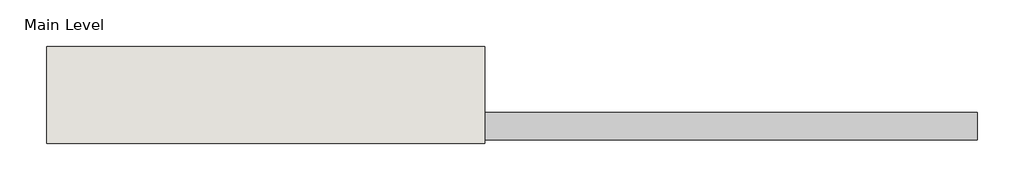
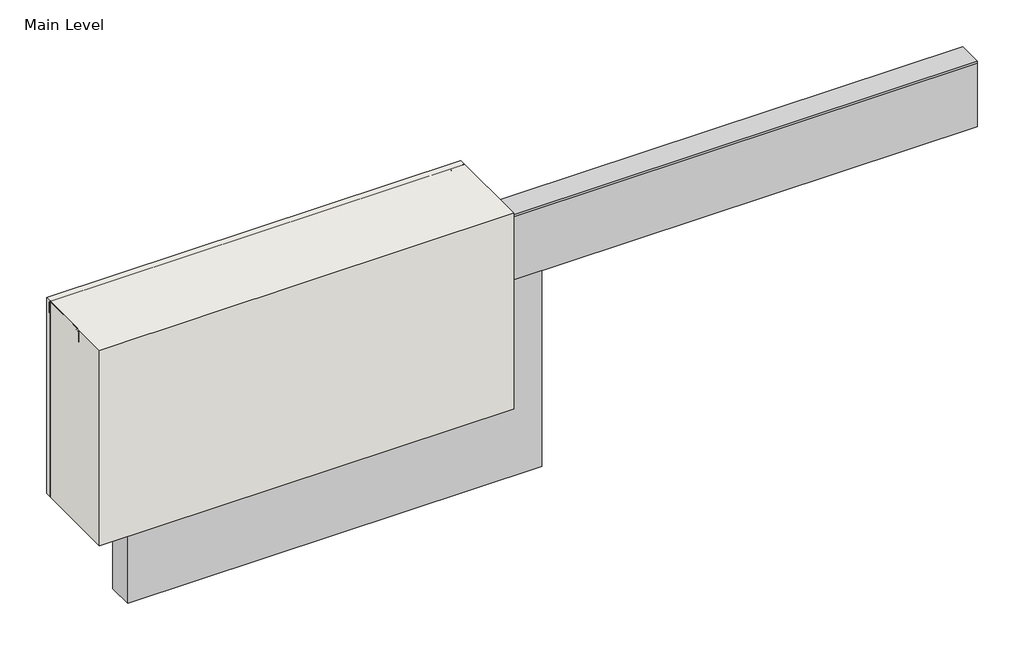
# One storey, incomplete: 4 proxies, 1 wall.
"""IFC4 building model written with IfcOpenShell, lengths in millimetres."""

from ifc_helpers import new_model, si_unit, origin, origin_with_axes, place, context, project, spatial, polyline, outline, extrude, transform, mapped, element, save
from components import generic_models_2388f69b, proxy_81afb05a, proxy_ba8d72b4, wood_blocking_3523bb6f

model = new_model("IFC4")

# Units and contexts
model_context = context("Model", 3, world=origin())
ifc_project = project(units=[si_unit("LENGTHUNIT", "METRE", prefix="MILLI")], contexts=[model_context])

# Site, building, storey
site = spatial("IfcSite", under=ifc_project)
building = spatial("IfcBuilding", under=site)
storey = spatial("IfcBuildingStorey", under=building, Name="Main Level", Elevation=0.0)

# Proxies
placement = place(None, origin())
generic_models_shape = generic_models_2388f69b(model_context)
element("IfcBuildingElementProxy", 1, Name="CRAi Generic Model Metal Stud Array : CRAi Generic Model Metal Stud Array", ObjectType="CRAi Generic Model Metal Stud Array : CRAi Generic Model Metal Stud Array", at=placement, inside=storey, context=model_context, shape_type="MappedRepresentation", body=[
    mapped(generic_models_shape, transform((26824.9289273, 719.7066297, 0.0), x_axis=(-1.0, 0.0, 0.0), y_axis=(0.0, -1.0, 0.0), z_axis=(0.0, 0.0, 1.0))),
])
proxy_shape = proxy_81afb05a(model_context)
element("IfcBuildingElementProxy", 2, Name="Durabond Generic Model Equalite Insulation Board : 3\"", ObjectType="Durabond Generic Model Equalite Insulation Board : 3\"", at=placement, inside=storey, context=model_context, shape_type="MappedRepresentation", body=[
    mapped(proxy_shape, transform((26913.8289273, 624.4566297, 88.9), x_axis=(1.0, 0.0, 0.0), y_axis=(0.0, 0.0, 1.0), z_axis=(0.0, -1.0, 0.0))),
])
proxy_2_shape = proxy_ba8d72b4(model_context)
element("IfcBuildingElementProxy", 3, Name="Durabond Generic Model Equalite Select Boundary Board : 3\"", ObjectType="Durabond Generic Model Equalite Select Boundary Board : 3\"", at=placement, inside=storey, context=model_context, shape_type="MappedRepresentation", body=[
    mapped(proxy_2_shape, transform((27586.9289273, 624.4566297, 495.3), x_axis=(-1.0, 0.0, 0.0), y_axis=(0.0, 0.0, -1.0), z_axis=(0.0, -1.0, 0.0))),
])
wood_blocking_shape = wood_blocking_3523bb6f(model_context)
element("IfcBuildingElementProxy", 4, Name="CRAi Generic Model Line Based Metal Framing Track : Wood Blocking", ObjectType="CRAi Generic Model Line Based Metal Framing Track : Wood Blocking", at=placement, inside=storey, context=model_context, shape_type="MappedRepresentation", body=[
    mapped(wood_blocking_shape, transform((26215.3289273, 795.9066297, 609.6), x_axis=(1.0, 0.0, 0.0), y_axis=(0.0, -1.0, 0.0), z_axis=(0.0, 0.0, -1.0))),
])

# Wall
element("IfcWall", 5, ObjectType="189mm (7.5”) EIFS Field Applied on Mtl. Stud Layer - 50mm Grooved Insulation Board Metal Stud Wall(AirStop) 2", at=placement, inside=storey, context=model_context, shape_type="SweptSolid", body=[
    extrude(outline(polyline([(27434.5289273, 538.7316297), (26215.3289273, 538.7316297), (26215.3289273, 808.6066297), (27434.5289273, 808.6066297), (27434.5289273, 538.7316297)])), origin_with_axes(), (0.0, 0.0, 1.0), 609.6),
])

save(model, "model.ifc")
